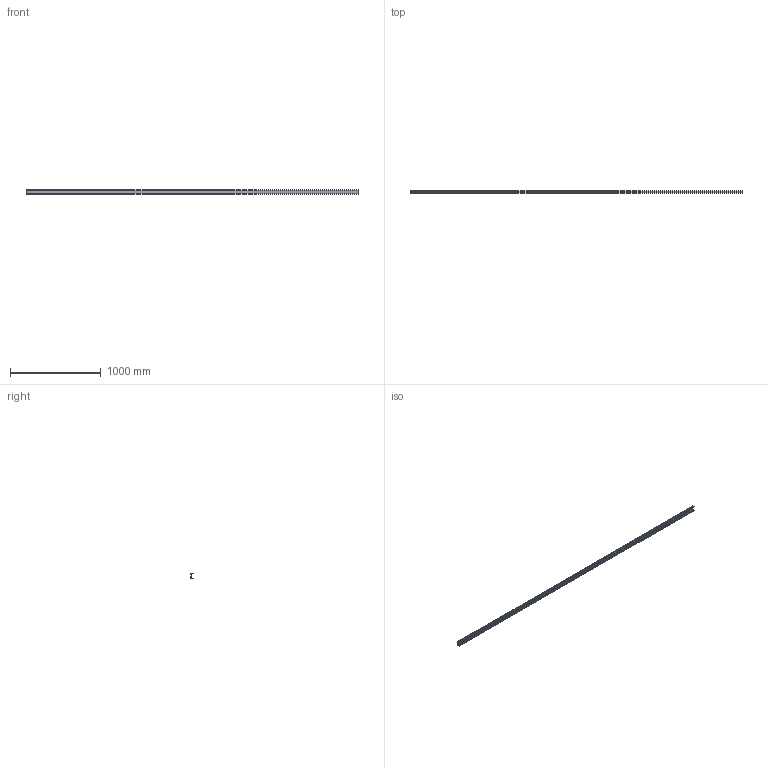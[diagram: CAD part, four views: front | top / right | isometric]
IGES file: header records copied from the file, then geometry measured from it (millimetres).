
Start section: Data from Parasolid IGES Translator 15.0.47, Copyright(c) 2006 Siemens P LM Software. All Rights Reserved.
Global section: file name: 9995910.igs; native system:  By UGS Corp.; preprocessor: XPlus GENERIC/IGES 3.0; author: Noname; organization: Noname; date: 20140122.180249; units: millimetre
Bounding box: 3660 x 25 x 52 mm (x, y, z)
Surface area: 825914.8 mm2 (no closed solid volume)
Topology: 0 solids, 0 shells, 31 faces, 174 edges, 174 vertices
Faces by surface type: extrusion 24, revolution 7
